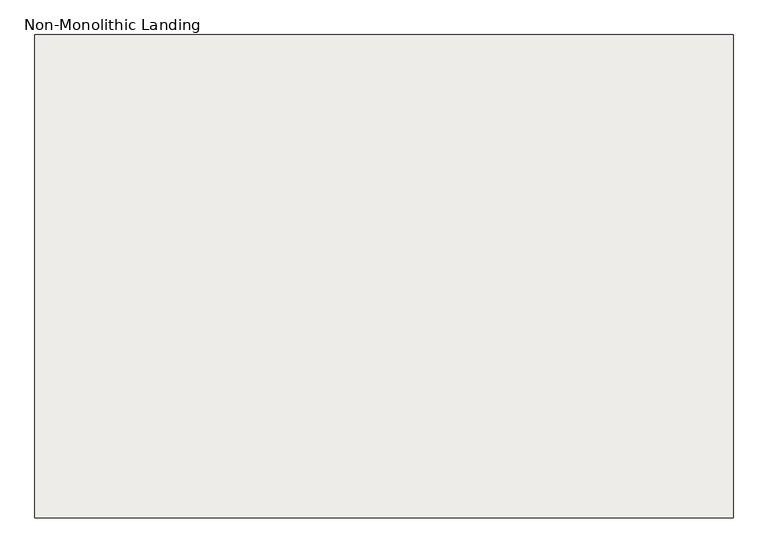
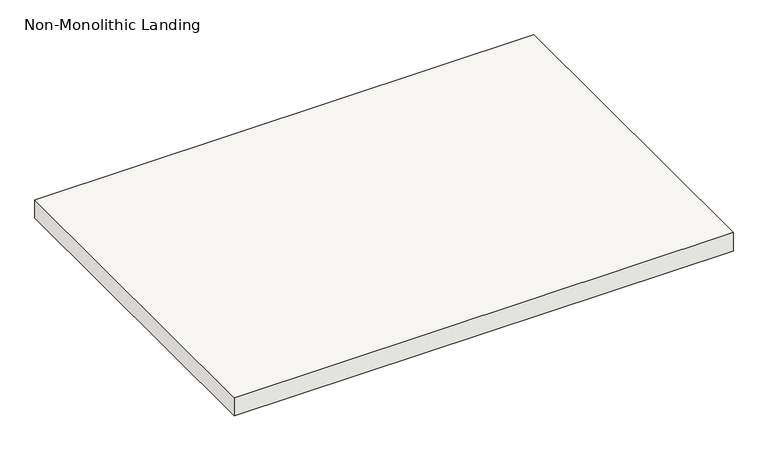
"""IFC4 building model written with IfcOpenShell, lengths in millimetres: slab geometry, Non-Monolithic Landing."""

from ifc_helpers import new_model, si_unit, frame, origin, place, context, project, spatial, polyline, outline, extrude, source, transform, mapped, element, save


def non_monolithic_landing_0b36ebb0(model_context):
    return source(origin(), model_context, "Body", "SweptSolid", [
        extrude(outline(polyline([(27862.0112561, -11662.6617549), (29182.8112561, -11662.6617549), (29182.8112561, -12577.0617549), (27862.0112561, -12577.0617549), (27862.0112561, -11662.6617549)])), frame((0.0, 0.0, 2126.3428571), z_axis=(0.0, 0.0, 1.0), x_axis=(1.0, 0.0, 0.0)), (0.0, 0.0, 1.0), 50.8),
    ])


if __name__ == "__main__":
    model = new_model("IFC4")
    model_context = context("Model", 3, world=origin())
    ifc_project = project(units=[si_unit("LENGTHUNIT", "METRE", prefix="MILLI")], contexts=[model_context])
    site = spatial("IfcSite", under=ifc_project)
    building = spatial("IfcBuilding", under=site)
    placement = place(None, origin())
    non_monolithic_landing_shape = non_monolithic_landing_0b36ebb0(model_context)
    element("IfcSlab", 1, ObjectType="Non-Monolithic Landing", at=placement, inside=building, context=model_context, shape_type="MappedRepresentation", body=[
        mapped(non_monolithic_landing_shape, transform((0.0, 0.0, 0.0), x_axis=(1.0, 0.0, 0.0), y_axis=(0.0, 1.0, 0.0), z_axis=(0.0, 0.0, 1.0))),
    ])
    save(model, "model.ifc")
